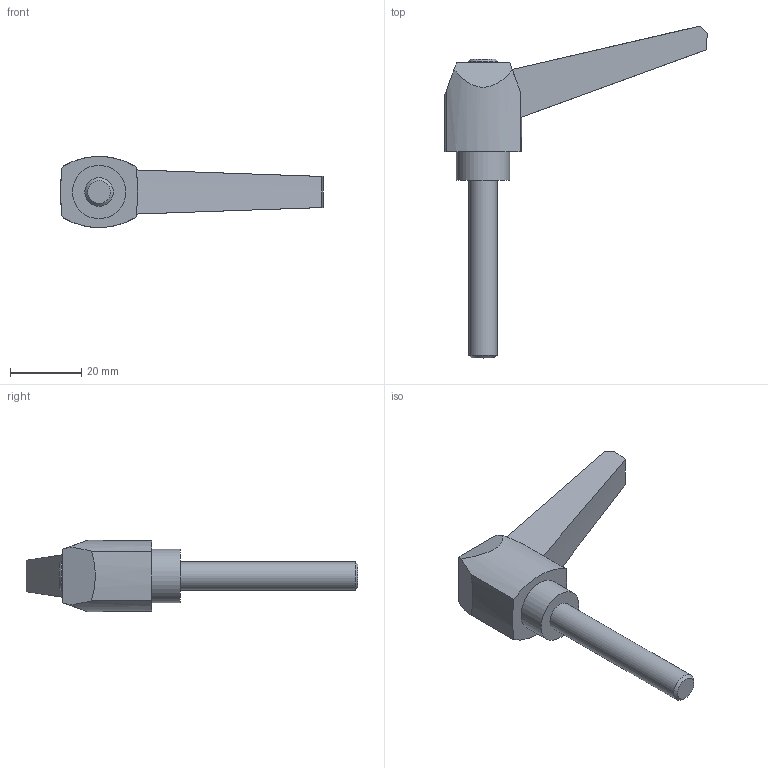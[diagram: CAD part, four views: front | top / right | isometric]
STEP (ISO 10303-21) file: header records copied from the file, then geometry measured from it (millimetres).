
FILE_DESCRIPTION( ( 'STEP AP203' ), '1' );
FILE_NAME( 'C:/Temp/Ganter_Step_05_03_2020/data/2_1/gn_500/gn_500_ms/Adjustable hand lever GN 500-63-M8-50-SW.stp', '2020-03-05T11:26:35', ( 'License CC BY-ND 4.0' ), ( 'CADENAS' ), ' ', 'PARTsolutions', ' ' );
FILE_SCHEMA( ( 'CONFIG_CONTROL_DESIGN' ) );
Length unit declared in the file: millimetre
Products named in the file (1): _Adjustable hand lever GN 500-63-M8-50-SW
Bounding box: 73.9 x 93.35 x 20 mm (x, y, z)
Volume: 19000.6 mm3; surface area: 6220.2 mm2
Topology: 1 solids, 1 shells, 24 faces, 56 edges, 37 vertices
Faces by surface type: plane 11, cylinder 7, cone 6
Full cylindrical faces by diameter (mm): 8 x2, 15 x1
Entity records: 708 total; most frequent: DIRECTION 122, CARTESIAN_POINT 117, ORIENTED_EDGE 100, EDGE_CURVE 50, AXIS2_PLACEMENT_3D 49, VERTEX_POINT 36, EDGE_LOOP 32, FACE_OUTER_BOUND 27
